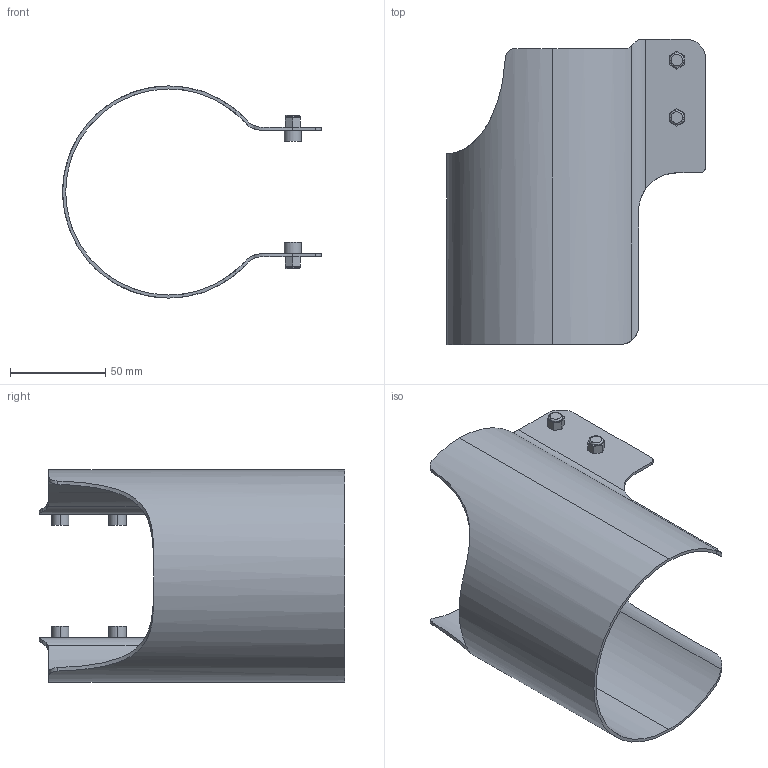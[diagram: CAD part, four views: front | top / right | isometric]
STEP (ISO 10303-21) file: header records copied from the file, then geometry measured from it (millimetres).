
FILE_DESCRIPTION (( 'STEP AP214' ), '1' );
FILE_NAME ('NSAZ200rev1.STEP', '2017-12-04T03:07:52', ( '' ), ( '' ), 'SwSTEP 2.0', 'SolidWorks 2013', '' );
FILE_SCHEMA (( 'AUTOMOTIVE_DESIGN' ));
Length unit declared in the file: millimetre
Products named in the file (1): NSAZ200rev1
Bounding box: 135.6 x 160 x 111.2 mm (x, y, z)
Volume: 69709.9 mm3; surface area: 86623.4 mm2
Topology: 1 solids, 1 shells, 102 faces, 256 edges, 168 vertices
Faces by surface type: plane 53, cylinder 40, torus 8, bspline 1
Entity records: 3493 total; most frequent: CARTESIAN_POINT 1008, ORIENTED_EDGE 512, DIRECTION 504, EDGE_CURVE 256, AXIS2_PLACEMENT_3D 180, VERTEX_POINT 168, VECTOR 144, LINE 144
